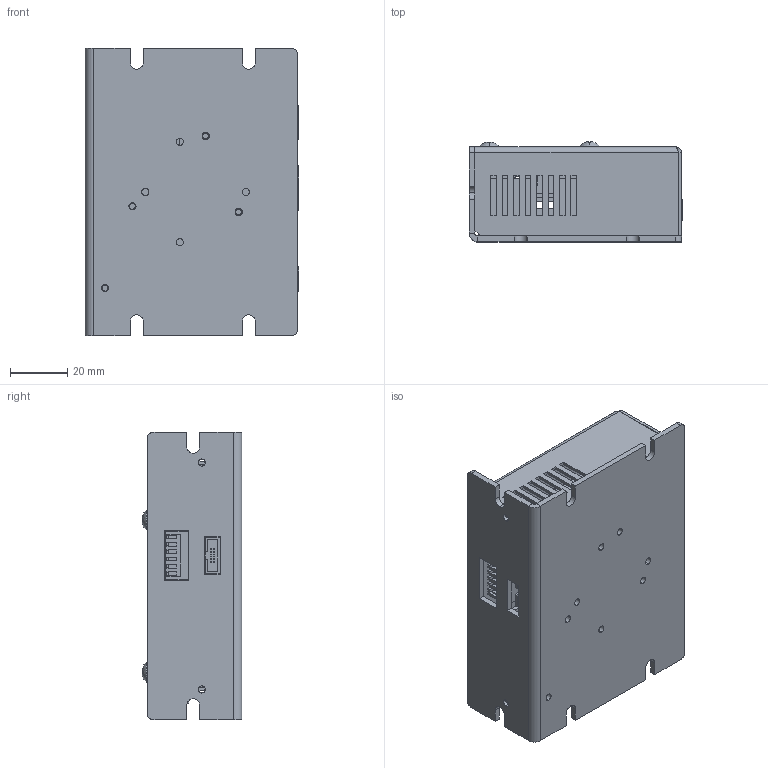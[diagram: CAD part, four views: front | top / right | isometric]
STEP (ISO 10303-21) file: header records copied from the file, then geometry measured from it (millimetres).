
FILE_DESCRIPTION (( 'STEP AP214' ), '1' );
FILE_NAME ('EXCD203MBN.STEP', '2021-02-04T07:48:05', ( '' ), ( '' ), 'SwSTEP 2.0', 'SolidWorks 2017', '' );
FILE_SCHEMA (( 'AUTOMOTIVE_DESIGN' ));
Length unit declared in the file: millimetre
Products named in the file (21): M3X7.8銅柱; PC-A03-6; SCSI-36P; TERMINAL-3P; TERMINAL-2P; M3X24.4銅柱; LED-301; EXCD203MB-PCB01; TERMINAL-4P; 接頭-01; EXCD203MB-C1; M3X15銅柱; EXCD203MB-PCB02; MINIDIN-4P; Samtec-MUSB-05-F-B-SM-A; NKJ3-6_NKJ3-6; EXCD203MB-PC001; EXCD203MBN; EXCD203MB-C3; EXCD203MB-C2C; TRSS3-6_TRSS3-6
Assembly tree (24 placements, depth 3):
  EXCD203MBN
    EXCD203MB-C1
    EXCD203MB-PC001
      EXCD203MB-PCB01
      TERMINAL-3P
      LED-301
      TERMINAL-4P
      MINIDIN-4P
      TERMINAL-2P
      EXCD203MB-PCB02
      SCSI-36P
      M3X7.8銅柱  x3
      PC-A03-6
      接頭-01
      Samtec-MUSB-05-F-B-SM-A
    EXCD203MB-C2C
    M3X15銅柱
    EXCD203MB-C3
    NKJ3-6_NKJ3-6  x2
    TRSS3-6_TRSS3-6  x2
    M3X24.4銅柱
Bounding box: 74.5 x 34.8 x 100 mm (x, y, z)
Volume: 58685.1 mm3; surface area: 76561.7 mm2
Topology: 29 solids, 29 shells, 1247 faces, 3173 edges, 2049 vertices
Faces by surface type: plane 881, cylinder 222, cone 118, torus 14, sphere 8, bspline 4
Entity records: 38147 total; most frequent: CARTESIAN_POINT 6403, ORIENTED_EDGE 5750, DIRECTION 5561, EDGE_CURVE 2875, LINE 2283, VECTOR 2283, VERTEX_POINT 1877, AXIS2_PLACEMENT_3D 1639
